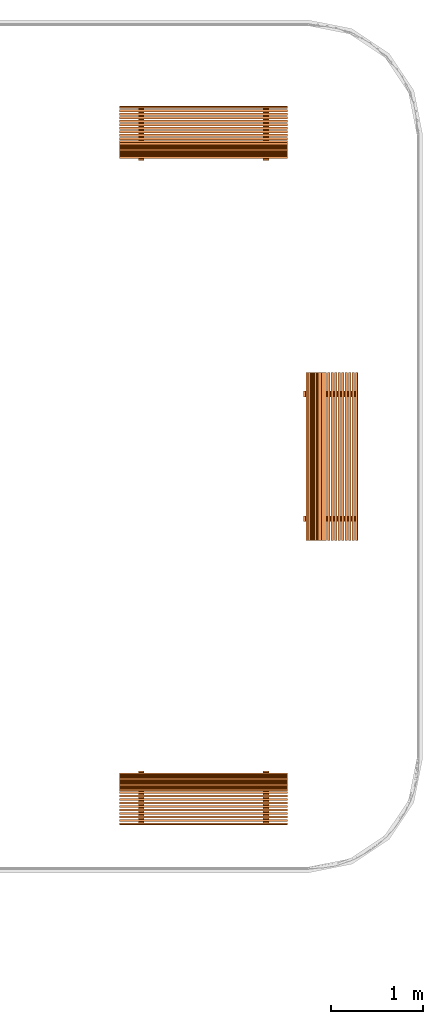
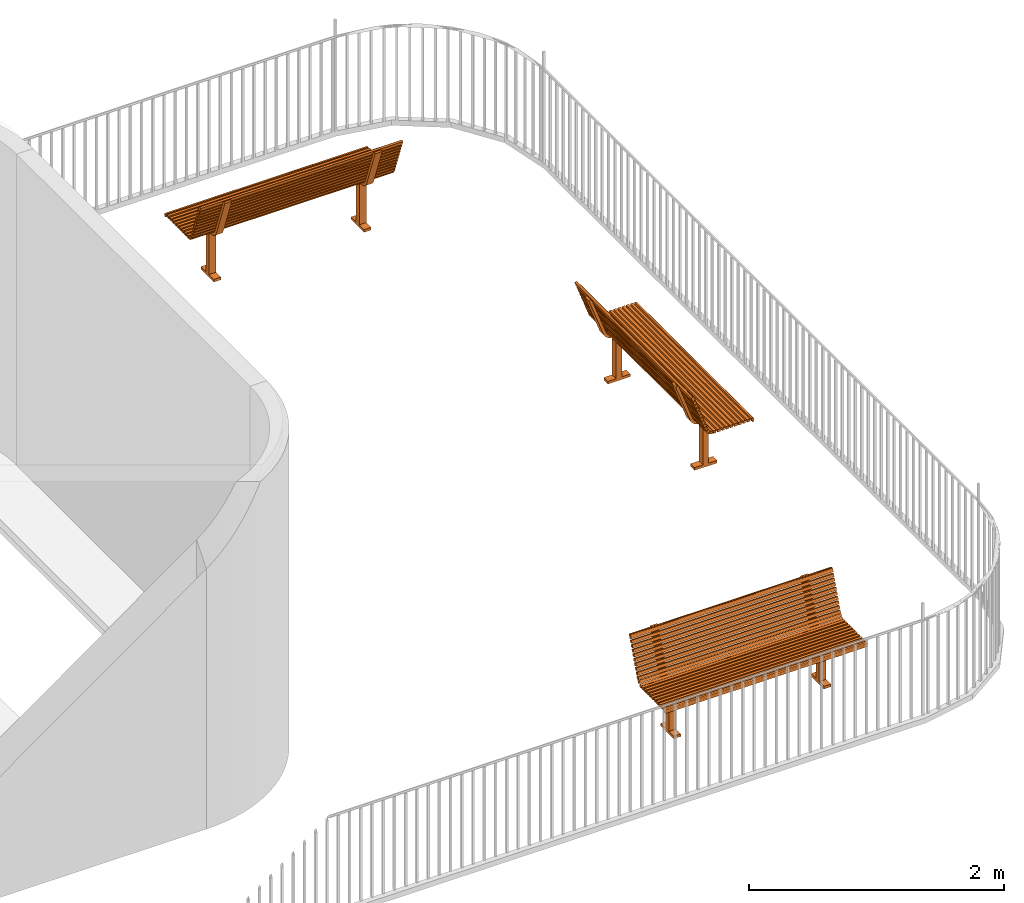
# One storey, part 7 of 8: 3 proxies.
"""IFC2X3 building model written with IfcOpenShell, lengths in feet."""

from ifc_helpers import new_model, entity, si_unit, converted_unit, derived_unit, direction, frame, frame_2d, origin, origin_2d_with_axis, place, context, subcontext, project, spatial, polyline, circle_curve, parameter, trimmed, segment, composite_curve, rectangle, outline, extrude, source, transform, mapped, material, material_list, element, save


model = new_model("IFC2X3")

# Units and contexts
model_context = context("Model", 3, precision=0.0001, world=origin(), true_north=direction((6.12303176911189e-17, 1.0)))
body_context = subcontext(model_context, "Body", "Model", "MODEL_VIEW")
ifc_project = project(units=[converted_unit("LENGTHUNIT", "FOOT", entity("IfcRatioMeasure", 0.3048), si_unit("LENGTHUNIT", "METRE"), dimensions=[1, 0, 0, 0, 0, 0, 0]), converted_unit("AREAUNIT", "SQUARE FOOT", entity("IfcRatioMeasure", 0.09290304), si_unit("AREAUNIT", "SQUARE_METRE"), dimensions=[2, 0, 0, 0, 0, 0, 0]), converted_unit("VOLUMEUNIT", "CUBIC FOOT", entity("IfcRatioMeasure", 0.028316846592), si_unit("VOLUMEUNIT", "CUBIC_METRE"), dimensions=[3, 0, 0, 0, 0, 0, 0]), converted_unit("PLANEANGLEUNIT", "DEGREE", entity("IfcRatioMeasure", 0.0174532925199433), si_unit("PLANEANGLEUNIT", "RADIAN"), dimensions=[0, 0, 0, 0, 0, 0, 0]), si_unit("MASSUNIT", "GRAM", prefix="KILO"), derived_unit("MASSDENSITYUNIT", [(si_unit("MASSUNIT", "GRAM", prefix="KILO"), 1), (si_unit("LENGTHUNIT", "METRE"), -3)]), si_unit("TIMEUNIT", "SECOND"), si_unit("FREQUENCYUNIT", "HERTZ"), si_unit("THERMODYNAMICTEMPERATUREUNIT", "DEGREE_CELSIUS"), derived_unit("THERMALTRANSMITTANCEUNIT", [(si_unit("MASSUNIT", "GRAM", prefix="KILO"), 1), (si_unit("THERMODYNAMICTEMPERATUREUNIT", "KELVIN"), -1), (si_unit("TIMEUNIT", "SECOND"), -3)]), derived_unit("VOLUMETRICFLOWRATEUNIT", [(si_unit("LENGTHUNIT", "METRE"), 3), (si_unit("TIMEUNIT", "SECOND"), -1)]), si_unit("ELECTRICCURRENTUNIT", "AMPERE"), si_unit("ELECTRICVOLTAGEUNIT", "VOLT"), si_unit("POWERUNIT", "WATT"), si_unit("FORCEUNIT", "NEWTON"), si_unit("ILLUMINANCEUNIT", "LUX"), si_unit("LUMINOUSFLUXUNIT", "LUMEN"), si_unit("LUMINOUSINTENSITYUNIT", "CANDELA"), derived_unit("USERDEFINED", [(si_unit("MASSUNIT", "GRAM", prefix="KILO"), -1), (si_unit("LENGTHUNIT", "METRE"), -2), (si_unit("TIMEUNIT", "SECOND"), 3), (si_unit("LUMINOUSFLUXUNIT", "LUMEN"), 1)]), derived_unit("LINEARVELOCITYUNIT", [(si_unit("LENGTHUNIT", "METRE"), 1), (si_unit("TIMEUNIT", "SECOND"), -1)]), si_unit("PRESSUREUNIT", "PASCAL"), derived_unit("USERDEFINED", [(si_unit("LENGTHUNIT", "METRE"), -2), (si_unit("MASSUNIT", "GRAM", prefix="KILO"), 1), (si_unit("TIMEUNIT", "SECOND"), -2)])], contexts=[model_context])

# Site, building, storey
site_placement = place(None, origin())
site = spatial("IfcSite", under=ifc_project, at=site_placement, Name="表面", CompositionType="ELEMENT")
building_placement = place(site_placement, origin())
building = spatial("IfcBuilding", under=site, at=building_placement, CompositionType="ELEMENT")
storey_placement = place(building_placement, frame((0.0, 0.0, 20.0)))
storey = spatial("IfcBuildingStorey", under=building, at=storey_placement, Name="Sun Deck", CompositionType="ELEMENT", Elevation=19.9999999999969)

# Proxies
ifc_material_1 = material(Name="Wood - Teak")
ifc_material_2 = material(Name="Metal - Paint Finish - Dark Gray, Matte")
ifc_material_list_1 = material_list([ifc_material_1, ifc_material_2])
shared_shape = source(origin(), body_context, "Body", "SweptSolid", [
    extrude(outline(composite_curve([segment(polyline([(0.00261579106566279, -0.0171130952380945), (0.0395786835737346, -0.0171130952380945)]), True, "CONTINUOUS"), segment(polyline([(0.0395786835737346, -0.0171130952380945), (0.0395786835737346, 0.0662202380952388)]), True, "CONTINUOUS"), segment(polyline([(0.0395786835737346, 0.0662202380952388), (0.00312035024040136, 0.0662202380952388)]), True, "CONTINUOUS"), segment(trimmed(circle_curve(frame_2d((0.00312035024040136, 0.0193452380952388), x_axis=(1.0, 0.0)), 0.046875), [parameter(89.9999999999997)], [parameter(179.999999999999)], True, "PARAMETER"), True, "CONTINUOUS"), segment(polyline([(-0.0437546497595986, 0.019345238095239), (-0.0437546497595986, -0.0587797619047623)]), True, "CONTINUOUS"), segment(polyline([(-0.0437546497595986, -0.0587797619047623), (0.00261579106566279, -0.0587797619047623)]), True, "CONTINUOUS"), segment(polyline([(0.00261579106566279, -0.0587797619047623), (0.00261579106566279, -0.0171130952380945)]), True, "CONTINUOUS")], self_intersect=False)), frame((-3.0, -1.00261579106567, 1.5171130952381), z_axis=(1.0, 0.0, 0.0), x_axis=(0.0, 1.0, 0.0)), (0.0, 0.0, 1.0), 6.0),
    extrude(outline(composite_curve([segment(polyline([(-0.0416666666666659, -0.0583333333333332), (0.0, -0.0583333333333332)]), True, "CONTINUOUS"), segment(trimmed(circle_curve(frame_2d((0.0, -0.0166666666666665), x_axis=(-0.939692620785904, -0.342020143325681)), 0.0416666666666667), [parameter(69.9999999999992)], [parameter(160.0)], True, "PARAMETER"), True, "CONTINUOUS"), segment(polyline([(0.0416666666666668, -0.0166666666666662), (0.0416666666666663, 0.0666666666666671)]), True, "CONTINUOUS"), segment(polyline([(0.0416666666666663, 0.0666666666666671), (-0.0416666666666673, 0.0666666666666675)]), True, "CONTINUOUS"), segment(polyline([(-0.0416666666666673, 0.0666666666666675), (-0.0416666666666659, -0.0583333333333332)]), True, "CONTINUOUS")], self_intersect=False)), frame((-3.0, 0.759102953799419, 2.79161760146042), z_axis=(1.0, 0.0, 0.0), x_axis=(0.0, -0.939692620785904, 0.342020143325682)), (0.0, 0.0, 1.0), 6.0),
    extrude(rectangle(XDim=6.0, YDim=0.0833333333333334, at=frame_2d((0.0, 5.55111512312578e-17), x_axis=(1.0, 0.0))), frame((0.0, -0.879703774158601, 1.5), z_axis=(0.0, 0.0, 1.0), x_axis=(-1.0, 0.0, 0.0)), (0.0, 0.0, 1.0), 0.0833333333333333),
    extrude(rectangle(XDim=6.0, YDim=0.0833333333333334, at=frame_2d((0.0, 5.55111512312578e-17), x_axis=(1.0, 0.0))), frame((0.0, -0.754703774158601, 1.5), z_axis=(0.0, 0.0, 1.0), x_axis=(-1.0, 0.0, 0.0)), (0.0, 0.0, 1.0), 0.0833333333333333),
    extrude(rectangle(XDim=6.0, YDim=0.0833333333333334, at=frame_2d((0.0, 5.55111512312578e-17), x_axis=(1.0, 0.0))), frame((0.0, -0.629703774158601, 1.5), z_axis=(0.0, 0.0, 1.0), x_axis=(-1.0, 0.0, 0.0)), (0.0, 0.0, 1.0), 0.0833333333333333),
    extrude(rectangle(XDim=6.0, YDim=0.0833333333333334, at=frame_2d((0.0, 5.55111512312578e-17), x_axis=(1.0, 0.0))), frame((0.0, -0.504703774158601, 1.5), z_axis=(0.0, 0.0, 1.0), x_axis=(-1.0, 0.0, 0.0)), (0.0, 0.0, 1.0), 0.0833333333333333),
    extrude(rectangle(XDim=6.0, YDim=0.0833333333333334, at=frame_2d((0.0, 5.55111512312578e-17), x_axis=(1.0, 0.0))), frame((0.0, -0.379703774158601, 1.5), z_axis=(0.0, 0.0, 1.0), x_axis=(-1.0, 0.0, 0.0)), (0.0, 0.0, 1.0), 0.0833333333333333),
    extrude(rectangle(XDim=6.0, YDim=0.0833333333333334, at=origin_2d_with_axis()), frame((0.0, -0.254703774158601, 1.5), z_axis=(0.0, 0.0, 1.0), x_axis=(-1.0, 0.0, 0.0)), (0.0, 0.0, 1.0), 0.0833333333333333),
    extrude(rectangle(XDim=6.0, YDim=0.0833333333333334, at=origin_2d_with_axis()), frame((0.0, -0.129703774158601, 1.5), z_axis=(0.0, 0.0, 1.0), x_axis=(-1.0, 0.0, 0.0)), (0.0, 0.0, 1.0), 0.0833333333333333),
    extrude(rectangle(XDim=6.0, YDim=0.0833333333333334, at=origin_2d_with_axis()), frame((0.0, -0.00470377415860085, 1.5), z_axis=(0.0, 0.0, 1.0), x_axis=(-1.0, 0.0, 0.0)), (0.0, 0.0, 1.0), 0.0833333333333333),
    extrude(rectangle(XDim=6.0, YDim=0.0833333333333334, at=origin_2d_with_axis()), frame((0.0, 0.120296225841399, 1.5), z_axis=(0.0, 0.0, 1.0), x_axis=(-1.0, 0.0, 0.0)), (0.0, 0.0, 1.0), 0.0833333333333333),
    extrude(rectangle(XDim=0.0833333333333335, YDim=0.0833333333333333, at=frame_2d((1.00613961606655e-16, -4.37150315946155e-16), x_axis=(0.0, 1.0))), frame((-3.0, 0.451284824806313, 1.9458942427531), z_axis=(1.0, 0.0, 0.0), x_axis=(0.0, -0.939692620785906, 0.342020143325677)), (0.0, 0.0, 1.0), 6.0),
    extrude(rectangle(XDim=0.0833333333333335, YDim=0.0833333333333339, at=frame_2d((-2.84494650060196e-16, 1.31838984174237e-16), x_axis=(0.0, 1.0))), frame((-3.0, 0.494037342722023, 2.06335582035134), z_axis=(1.0, 0.0, 0.0), x_axis=(0.0, -0.939692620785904, 0.342020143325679)), (0.0, 0.0, 1.0), 6.0),
    extrude(rectangle(XDim=0.0833333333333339, YDim=0.0833333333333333, at=frame_2d((-1.04083408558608e-16, -3.81639164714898e-17), x_axis=(0.0, 1.0))), frame((-3.0, 0.365779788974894, 1.71097108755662), z_axis=(1.0, 0.0, 0.0), x_axis=(0.0, -0.939692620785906, 0.342020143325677)), (0.0, 0.0, 1.0), 6.0),
    extrude(rectangle(XDim=0.0833333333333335, YDim=0.0833333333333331, at=frame_2d((0.0, 0.0), x_axis=(0.0, 1.0))), frame((-3.0, 0.408532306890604, 1.82843266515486), z_axis=(1.0, 0.0, 0.0), x_axis=(0.0, -0.939692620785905, 0.342020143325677)), (0.0, 0.0, 1.0), 6.0),
    extrude(rectangle(XDim=0.083333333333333, YDim=0.0833333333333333, at=frame_2d((-1.04083408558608e-16, -3.46944695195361e-17), x_axis=(0.0, 1.0))), frame((-3.0, 0.62229489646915, 2.41574055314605), z_axis=(1.0, 0.0, 0.0), x_axis=(0.0, -0.939692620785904, 0.342020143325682)), (0.0, 0.0, 1.0), 6.0),
    extrude(rectangle(XDim=0.0833333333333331, YDim=0.0833333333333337, at=frame_2d((-2.08166817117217e-16, -7.63278329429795e-17), x_axis=(0.0, 1.0))), frame((-3.0, 0.66504741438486, 2.53320213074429), z_axis=(1.0, 0.0, 0.0), x_axis=(0.0, -0.939692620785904, 0.34202014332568)), (0.0, 0.0, 1.0), 6.0),
    extrude(rectangle(XDim=0.0833333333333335, YDim=0.0833333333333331, at=frame_2d((0.0, 0.0), x_axis=(0.0, 1.0))), frame((-3.0, 0.536789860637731, 2.18081739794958), z_axis=(1.0, 0.0, 0.0), x_axis=(0.0, -0.939692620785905, 0.342020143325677)), (0.0, 0.0, 1.0), 6.0),
    extrude(rectangle(XDim=0.0833333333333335, YDim=0.0833333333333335, at=frame_2d((-2.77555756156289e-17, -2.4980018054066e-16), x_axis=(0.0, 1.0))), frame((-3.0, 0.579542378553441, 2.29827897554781), z_axis=(1.0, 0.0, 0.0), x_axis=(0.0, -0.939692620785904, 0.342020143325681)), (0.0, 0.0, 1.0), 6.0),
    extrude(rectangle(XDim=0.0833333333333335, YDim=0.0833333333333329, at=frame_2d((1.04083408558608e-16, 3.46944695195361e-17), x_axis=(0.0, 1.0))), frame((-3.0, 0.707799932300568, 2.65066370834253), z_axis=(1.0, 0.0, 0.0), x_axis=(0.0, -0.939692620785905, 0.342020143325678)), (0.0, 0.0, 1.0), 6.0),
    extrude(rectangle(XDim=0.0833333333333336, YDim=0.0833333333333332, at=frame_2d((-4.5102810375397e-17, -3.12250225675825e-17), x_axis=(0.0, 1.0))), frame((-3.0, 0.316513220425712, 1.62022816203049), z_axis=(1.0, 0.0, 0.0), x_axis=(0.0, -0.81915204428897, 0.573576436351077)), (0.0, 0.0, 1.0), 6.0),
    extrude(rectangle(XDim=0.0833333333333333, YDim=0.0833333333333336, at=frame_2d((1.38777878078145e-17, 5.55111512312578e-17), x_axis=(1.0, 0.0))), frame((-3.0, 0.223300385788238, 1.55112877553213), z_axis=(1.0, 0.0, 0.0), x_axis=(0.0, -0.258819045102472, 0.965925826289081)), (0.0, 0.0, 1.0), 6.0),
    extrude(outline(composite_curve([segment(polyline([(1.13181042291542, -0.437831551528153), (1.21514375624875, -0.437831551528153)]), True, "CONTINUOUS"), segment(polyline([(1.21514375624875, -0.437831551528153), (1.21514375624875, 0.228835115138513)]), True, "CONTINUOUS"), segment(polyline([(1.21514375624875, 0.228835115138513), (1.13181042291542, 0.228835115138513)]), True, "CONTINUOUS"), segment(polyline([(1.13181042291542, 0.228835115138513), (1.13181042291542, -0.0211648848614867)]), True, "CONTINUOUS"), segment(polyline([(1.13181042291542, -0.0211648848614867), (-0.201522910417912, -0.0211648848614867)]), True, "CONTINUOUS"), segment(polyline([(-0.201522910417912, -0.0211648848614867), (-0.201522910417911, 0.0829585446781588)]), True, "CONTINUOUS"), segment(trimmed(circle_curve(frame_2d((-0.493189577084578, 0.0829585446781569), x_axis=(0.0, 1.0)), 0.291666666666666), [parameter(270.0)], [parameter(340.0)], True, "PARAMETER"), True, "CONTINUOUS"), segment(polyline([(-0.393433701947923, 0.357035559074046), (-1.58758577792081, 0.791671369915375)]), True, "CONTINUOUS"), segment(polyline([(-1.58758577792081, 0.791671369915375), (-1.60183661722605, 0.752517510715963)]), True, "CONTINUOUS"), segment(trimmed(circle_curve(frame_2d((-1.56268275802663, 0.738266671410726), x_axis=(0.0, 1.0)), 0.0416666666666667), [parameter(69.9999999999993)], [parameter(160.0)], True, "PARAMETER"), True, "CONTINUOUS"), segment(polyline([(-1.57693359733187, 0.699112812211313), (-0.421935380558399, 0.278727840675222)]), True, "CONTINUOUS"), segment(trimmed(circle_curve(frame_2d((-0.493189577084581, 0.0829585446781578), x_axis=(0.0, 1.0)), 0.208333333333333), [parameter(270.0)], [parameter(340.0)], True, "PARAMETER"), False, "CONTINUOUS"), segment(polyline([(-0.284856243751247, 0.0829585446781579), (-0.284856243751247, -1.10449821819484)]), True, "CONTINUOUS"), segment(polyline([(-0.284856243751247, -1.10449821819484), (-0.201522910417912, -1.10449821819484)]), True, "CONTINUOUS"), segment(polyline([(-0.201522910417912, -1.10449821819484), (-0.201522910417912, -0.187831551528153)]), True, "CONTINUOUS"), segment(polyline([(-0.201522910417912, -0.187831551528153), (1.13181042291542, -0.187831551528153)]), True, "CONTINUOUS"), segment(polyline([(1.13181042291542, -0.187831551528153), (1.13181042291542, -0.437831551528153)]), True, "CONTINUOUS")], self_intersect=False)), frame((2.12721016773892, 0.104498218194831, 1.21514375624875), z_axis=(1.0, 0.0, 0.0), x_axis=(0.0, 0.0, -1.0)), (0.0, 0.0, 1.0), 0.206123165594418),
    extrude(outline(composite_curve([segment(polyline([(1.13181042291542, -0.437831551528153), (1.21514375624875, -0.437831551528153)]), True, "CONTINUOUS"), segment(polyline([(1.21514375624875, -0.437831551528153), (1.21514375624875, 0.228835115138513)]), True, "CONTINUOUS"), segment(polyline([(1.21514375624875, 0.228835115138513), (1.13181042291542, 0.228835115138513)]), True, "CONTINUOUS"), segment(polyline([(1.13181042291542, 0.228835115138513), (1.13181042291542, -0.0211648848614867)]), True, "CONTINUOUS"), segment(polyline([(1.13181042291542, -0.0211648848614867), (-0.201522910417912, -0.0211648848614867)]), True, "CONTINUOUS"), segment(polyline([(-0.201522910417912, -0.0211648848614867), (-0.201522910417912, 0.0829585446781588)]), True, "CONTINUOUS"), segment(trimmed(circle_curve(frame_2d((-0.493189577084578, 0.0829585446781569), x_axis=(0.0, 1.0)), 0.291666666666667), [parameter(270.0)], [parameter(340.0)], True, "PARAMETER"), True, "CONTINUOUS"), segment(polyline([(-0.393433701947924, 0.357035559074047), (-1.58758577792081, 0.791671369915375)]), True, "CONTINUOUS"), segment(polyline([(-1.58758577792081, 0.791671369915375), (-1.60183661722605, 0.752517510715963)]), True, "CONTINUOUS"), segment(trimmed(circle_curve(frame_2d((-1.56268275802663, 0.738266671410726), x_axis=(0.0, 1.0)), 0.0416666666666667), [parameter(69.9999999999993)], [parameter(160.0)], True, "PARAMETER"), True, "CONTINUOUS"), segment(polyline([(-1.57693359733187, 0.699112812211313), (-0.421935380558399, 0.278727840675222)]), True, "CONTINUOUS"), segment(trimmed(circle_curve(frame_2d((-0.493189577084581, 0.0829585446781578), x_axis=(0.0, 1.0)), 0.208333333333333), [parameter(270.0)], [parameter(340.0)], True, "PARAMETER"), False, "CONTINUOUS"), segment(polyline([(-0.284856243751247, 0.0829585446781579), (-0.284856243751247, -1.10449821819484)]), True, "CONTINUOUS"), segment(polyline([(-0.284856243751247, -1.10449821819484), (-0.201522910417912, -1.10449821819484)]), True, "CONTINUOUS"), segment(polyline([(-0.201522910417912, -1.10449821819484), (-0.201522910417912, -0.187831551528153)]), True, "CONTINUOUS"), segment(polyline([(-0.201522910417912, -0.187831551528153), (1.13181042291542, -0.187831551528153)]), True, "CONTINUOUS"), segment(polyline([(1.13181042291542, -0.187831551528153), (1.13181042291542, -0.437831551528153)]), True, "CONTINUOUS")], self_intersect=False)), frame((-2.33333333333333, 0.104498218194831, 1.21514375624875), z_axis=(1.0, 0.0, 0.0), x_axis=(0.0, 0.0, -1.0)), (0.0, 0.0, 1.0), 0.20961839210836),
])
proxy_1_placement = place(storey_placement, frame((28.2984202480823, -10.7342729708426, 0.0)))
element("IfcBuildingElementProxy", 1, at=proxy_1_placement, inside=storey, material=ifc_material_list_1, Name="Park Bench:72\"", ObjectType="72\"", context=body_context, shape_type="MappedRepresentation", body=[
    mapped(shared_shape, transform((0.0, 0.0, 0.0), scale=1.0)),
])
ifc_material_list_2 = material_list([ifc_material_1, ifc_material_2])
proxy_2_placement = place(storey_placement, frame((28.2984202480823, 12.8860232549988, 0.0), z_axis=(0.0, 0.0, 1.0), x_axis=(-1.0, 0.0, 0.0)))
element("IfcBuildingElementProxy", 2, at=proxy_2_placement, inside=storey, material=ifc_material_list_2, Name="Park Bench:72\"", ObjectType="72\"", context=body_context, shape_type="MappedRepresentation", body=[
    mapped(shared_shape, transform((0.0, 0.0, 0.0), scale=1.0)),
])
ifc_material_list_3 = material_list([ifc_material_1, ifc_material_2])
proxy_3_placement = place(storey_placement, frame((32.7752350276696, 1.40920847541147, 0.0), z_axis=(0.0, 0.0, 1.0), x_axis=(0.0, 1.0, 0.0)))
element("IfcBuildingElementProxy", 3, at=proxy_3_placement, inside=storey, material=ifc_material_list_3, Name="Park Bench:72\"", ObjectType="72\"", context=body_context, shape_type="MappedRepresentation", body=[
    mapped(shared_shape, transform((0.0, 0.0, 0.0), scale=1.0)),
])

save(model, "model.ifc")
